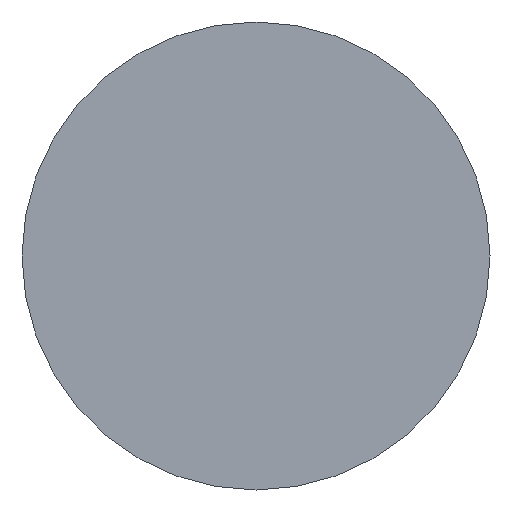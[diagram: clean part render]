
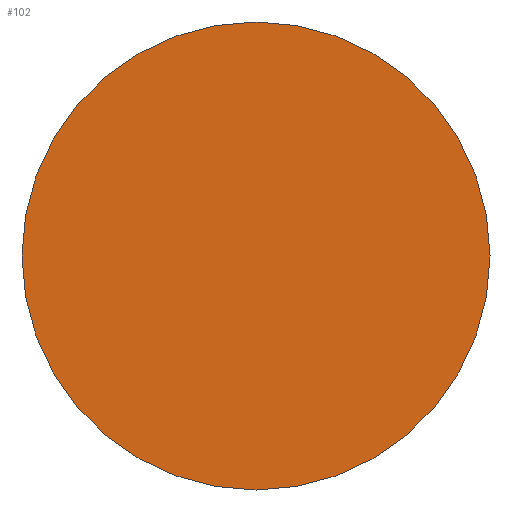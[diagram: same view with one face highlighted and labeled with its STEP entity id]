
A CAD part, left-side view. The second image highlights one B-rep face of the part: STEP entity #102.
In plain terms, the highlighted planar face has unit normal (-1, 0, 0).
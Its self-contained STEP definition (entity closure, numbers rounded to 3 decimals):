
#26 = DIRECTION ( 'NONE',  ( 0., 1., 0. ) ) ;
#27 = AXIS2_PLACEMENT_3D ( 'NONE', #121, #93, #26 ) ;
#35 = AXIS2_PLACEMENT_3D ( 'NONE', #229, #253, #128 ) ;
#52 = EDGE_CURVE ( 'NONE', #199, #227, #244, .T. ) ;
#53 = ORIENTED_EDGE ( 'NONE', *, *, #52, .F. ) ;
#56 = ORIENTED_EDGE ( 'NONE', *, *, #86, .F. ) ;
#68 = CIRCLE ( 'NONE', #27, 6. ) ;
#83 = AXIS2_PLACEMENT_3D ( 'NONE', #89, #108, #138 ) ;
#86 = EDGE_CURVE ( 'NONE', #227, #199, #68, .T. ) ;
#89 = CARTESIAN_POINT ( 'NONE',  ( 0., 0., 0. ) ) ;
#93 = DIRECTION ( 'NONE',  ( 1., 0., 0. ) ) ;
#102 = ADVANCED_FACE ( 'NONE', ( #151 ), #186, .T. ) ;
#108 = DIRECTION ( 'NONE',  ( -1., 0., 0. ) ) ;
#121 = CARTESIAN_POINT ( 'NONE',  ( 0., 0., 0. ) ) ;
#128 = DIRECTION ( 'NONE',  ( 0., 1., 0. ) ) ;
#138 = DIRECTION ( 'NONE',  ( 0., -1., 0. ) ) ;
#151 = FACE_OUTER_BOUND ( 'NONE', #174, .T. ) ;
#174 = EDGE_LOOP ( 'NONE', ( #56, #53 ) ) ;
#186 = PLANE ( 'NONE',  #83 ) ;
#199 = VERTEX_POINT ( 'NONE', #254 ) ;
#227 = VERTEX_POINT ( 'NONE', #237 ) ;
#229 = CARTESIAN_POINT ( 'NONE',  ( 0., 0., 0. ) ) ;
#237 = CARTESIAN_POINT ( 'NONE',  ( 0., 6., 0. ) ) ;
#244 = CIRCLE ( 'NONE', #35, 6. ) ;
#253 = DIRECTION ( 'NONE',  ( 1., 0., 0. ) ) ;
#254 = CARTESIAN_POINT ( 'NONE',  ( 0., -6., 0. ) ) ;
